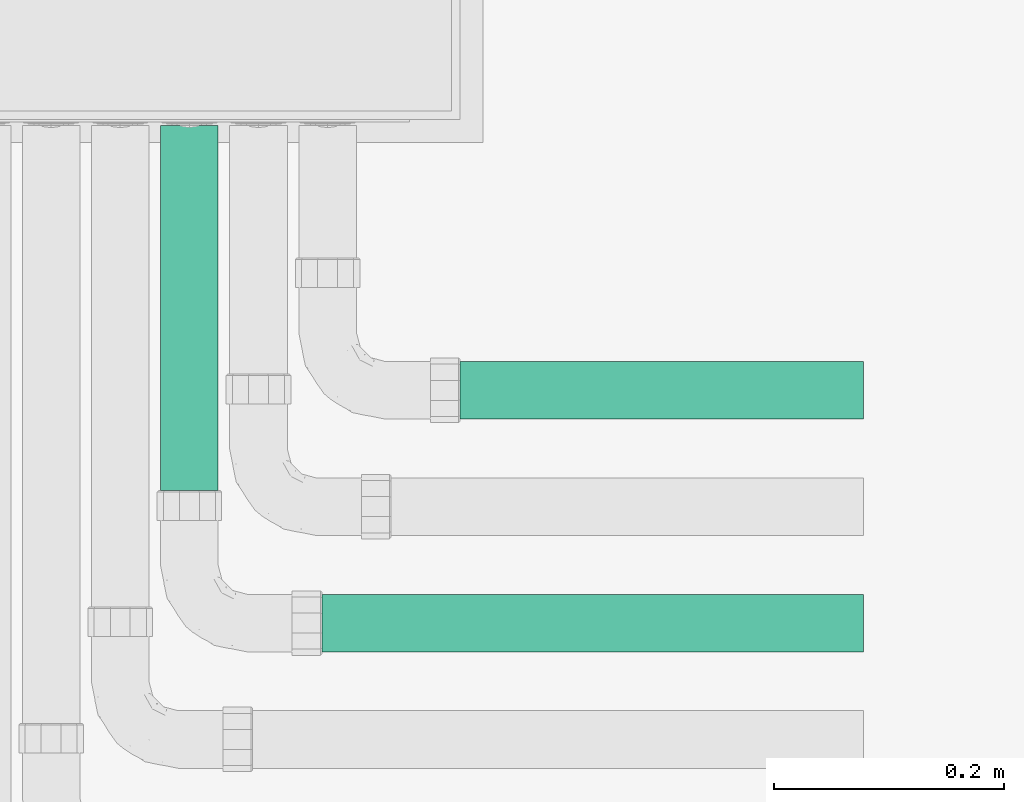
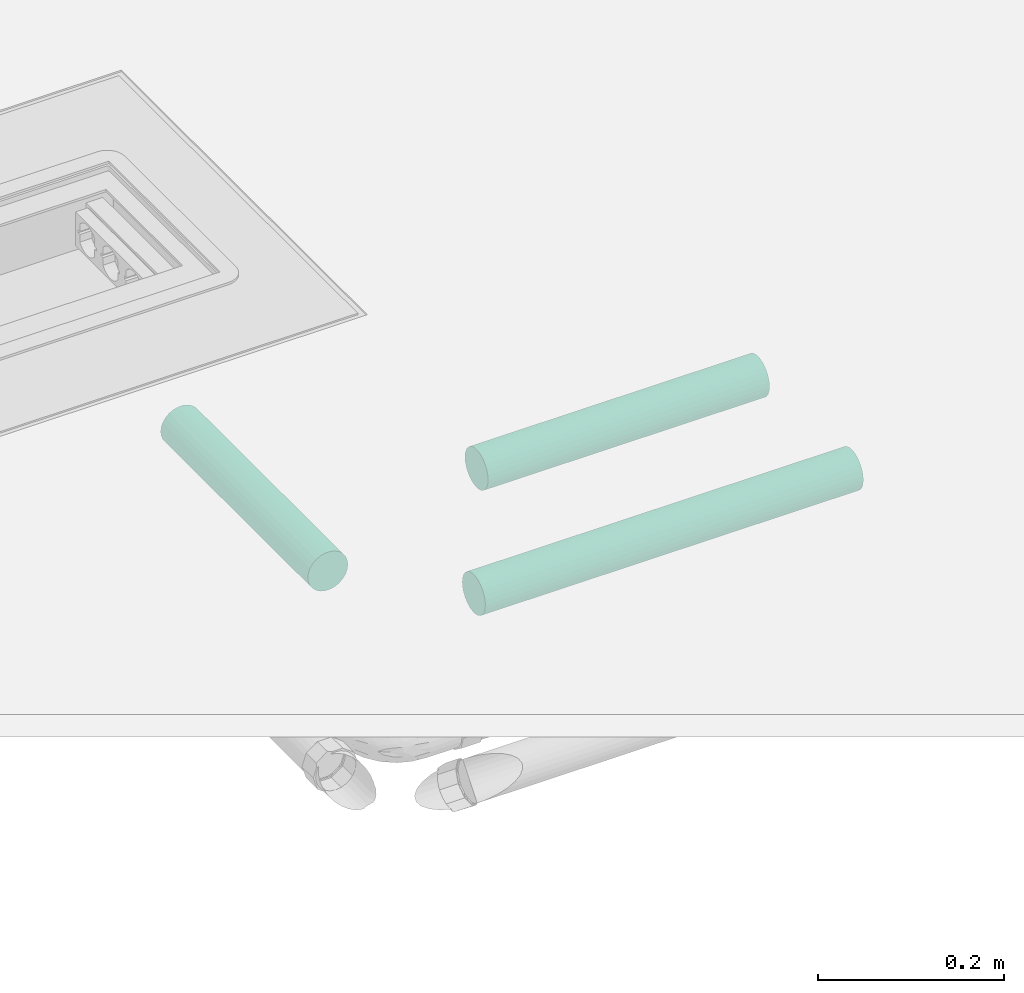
# One storey, part 6 of 87: 3 flow segments.
"""IFC2X3 building model written with IfcOpenShell, lengths in millimetres."""

import ifcopenshell
import ifcopenshell.guid

model = None  # the IFC model being written
_history = None  # IfcOwnerHistory: only IFC2X3 demands one
_inside = {}  # id of a spatial element -> (the spatial element, [elements in it])
_under = {}  # id of a project, library or spatial element -> (it, [spatial elements below it])
_declared = {}  # id of a project -> (the project, [libraries it declares])
_typed = {}  # id of a type object -> (the type object, [elements of that type])
_made_of = {}  # id of a material, layer set ... -> (it, [elements and type objects made of it])


def new_model(schema):
    """Start an empty IFC model of exactly this schema.

    Asked for "IFC4X3", IfcOpenShell would pick the latest addendum, in which some entities
    have other attributes; the version numbers below select the first issue.
    IFC2X3 requires an IfcOwnerHistory on every rooted entity: one is made here for all.
    """
    global model, _history
    if schema == "IFC4X3":
        model = ifcopenshell.file(schema_version=(4, 3, 0, 0))
    else:
        model = ifcopenshell.file(schema=schema)
    _inside.clear()
    _under.clear()
    _declared.clear()
    _typed.clear()
    _made_of.clear()
    _history = None
    if model.schema == "IFC2X3":
        org = make("IfcOrganization", Name="unknown")
        user = make(
            "IfcPersonAndOrganization",
            ThePerson=make("IfcPerson", FamilyName="unknown"),
            TheOrganization=org,
        )
        app = make(
            "IfcApplication",
            ApplicationDeveloper=org,
            Version="unknown",
            ApplicationFullName="unknown",
            ApplicationIdentifier="unknown",
        )
        _history = make(
            "IfcOwnerHistory",
            OwningUser=user,
            OwningApplication=app,
            ChangeAction="ADDED",
            CreationDate=0,
        )
    return model


def make(cls, **values):
    """One entity of the class cls with the attributes given. An attribute that is None is left unset."""
    return model.create_entity(
        cls, **{name: value for name, value in values.items() if value is not None}
    )


def entity(cls, *values):
    """Any entity or typed value of the class cls, its attributes in the order of the schema. None: left unset."""
    e = model.create_entity(cls)
    for i, value in enumerate(values):
        if value is not None:
            e[i] = value
    return e


def rooted(cls, **values):
    """An entity with a GlobalId (a new one), such as an element, a storey or a relation."""
    return make(cls, GlobalId=ifcopenshell.guid.new(), OwnerHistory=_history, **values)


def si_unit(unit_type, name, prefix=None):
    """IfcSIUnit, for example si_unit("LENGTHUNIT", "METRE", prefix="MILLI")."""
    return make("IfcSIUnit", UnitType=unit_type, Prefix=prefix, Name=name)


def converted_unit(unit_type, name, factor, base, dimensions=None, offset=None):
    """IfcConversionBasedUnit, such as the inch: factor (a typed value) times the base unit."""
    return make(
        "IfcConversionBasedUnit"
        if offset is None
        else "IfcConversionBasedUnitWithOffset",
        ConversionOffset=offset,
        Dimensions=None
        if dimensions is None
        else entity("IfcDimensionalExponents", *dimensions),
        UnitType=unit_type,
        Name=name,
        ConversionFactor=make(
            "IfcMeasureWithUnit", ValueComponent=factor, UnitComponent=base
        ),
    )


def derived_unit(unit_type, elements):
    """IfcDerivedUnit: a product of units, each with its exponent."""
    return make(
        "IfcDerivedUnit",
        Elements=[
            make("IfcDerivedUnitElement", Unit=unit, Exponent=power)
            for unit, power in elements
        ],
        UnitType=unit_type,
    )


def assignment(units):
    """IfcUnitAssignment: the units of a project."""
    return None if units is None else make("IfcUnitAssignment", Units=units)


def point(xyz):
    """IfcCartesianPoint."""
    return None if xyz is None else make("IfcCartesianPoint", Coordinates=xyz)


def direction(xyz):
    """IfcDirection."""
    return None if xyz is None else make("IfcDirection", DirectionRatios=xyz)


def frame(location, z_axis=None, x_axis=None):
    """IfcAxis2Placement3D, a coordinate frame: its origin and axes. An axis left out is left unset."""
    return make(
        "IfcAxis2Placement3D",
        Location=point(location),
        Axis=direction(z_axis),
        RefDirection=direction(x_axis),
    )


def frame_2d(location, x_axis=None):
    """IfcAxis2Placement2D, a coordinate frame in the plane: its origin and x axis."""
    return make(
        "IfcAxis2Placement2D", Location=point(location), RefDirection=direction(x_axis)
    )


def origin():
    """The frame at (0, 0, 0) with its axes left unset."""
    return frame((0.0, 0.0, 0.0))


def place(relative_to, where):
    """IfcLocalPlacement: puts the frame where relative to a parent placement (None: the world)."""
    return make(
        "IfcLocalPlacement", PlacementRelTo=relative_to, RelativePlacement=where
    )


def context(
    kind, dimensions, precision=None, world=None, true_north=None, identifier=None
):
    """IfcGeometricRepresentationContext, for example the 3D "Model" context."""
    return make(
        "IfcGeometricRepresentationContext",
        ContextIdentifier=identifier,
        ContextType=kind,
        CoordinateSpaceDimension=dimensions,
        Precision=precision,
        WorldCoordinateSystem=world,
        TrueNorth=true_north,
    )


def subcontext(parent, identifier, kind, view, scale=None):
    """IfcGeometricRepresentationSubContext, for example "Body" below "Model"."""
    return make(
        "IfcGeometricRepresentationSubContext",
        ContextIdentifier=identifier,
        ContextType=kind,
        ParentContext=parent,
        TargetScale=scale,
        TargetView=view,
    )


def project(units=None, contexts=None):
    """IfcProject with its units and contexts."""
    return rooted(
        "IfcProject",
        Name="project",
        RepresentationContexts=contexts,
        UnitsInContext=assignment(units),
    )


def spatial(cls, under=None, at=None, **own):
    """A site, building, storey or space (cls), placed at a placement, below another one or the project."""
    s = rooted(cls, ObjectPlacement=at, **own)
    if under is not None:
        _under.setdefault(under.id(), (under, []))[1].append(s)
    return s


def profile(cls, at=None, kind="AREA", **sizes):
    """A parametric profile (cls). Its sizes go by their IFC names, for example OverallWidth=200.0."""
    return make(cls, ProfileType=kind, Position=at, **sizes)


def circle(**sizes):
    """IfcCircleProfileDef."""
    return profile("IfcCircleProfileDef", **sizes)


def extrude(swept, where, along, depth):
    """IfcExtrudedAreaSolid: the profile swept, set in the frame where, extruded along a direction by depth."""
    return make(
        "IfcExtrudedAreaSolid",
        SweptArea=swept,
        Position=where,
        ExtrudedDirection=direction(along),
        Depth=depth,
    )


def shape(context_of_items, identifier, shape_type, items):
    """IfcShapeRepresentation: the items that make up one representation, for example the "Body"."""
    return make(
        "IfcShapeRepresentation",
        ContextOfItems=context_of_items,
        RepresentationIdentifier=identifier,
        RepresentationType=shape_type,
        Items=items,
    )


def made_of(thing, what):
    """Note that an element or type object is made of a material, layer set ...; save() writes the relation."""
    if what is not None:
        _made_of.setdefault(what.id(), (what, []))[1].append(thing)
    return thing


def type_object(cls, material=None, **own):
    """A type object (cls), such as IfcWallType, which elements share."""
    return made_of(rooted(cls, **own), material)


def element(
    cls,
    number,
    at=None,
    inside=None,
    cuts=None,
    type_object=None,
    material=None,
    context=None,
    identifier="Body",
    shape_type=None,
    held_by="IfcProductDefinitionShape",
    body=None,
    shapes=None,
    **own,
):
    """One element of the class cls, such as IfcWall. Its Tag is "e" and its number.

    at: its placement. inside: the storey or other place that contains it. cuts: it is an
    opening in that element (IfcRelVoidsElement). A single representation is given by context,
    identifier, shape_type and body (its items); several are given by shapes. held_by: the class
    of the entity that holds the representations. save() writes the other relations.
    """
    e = rooted(cls, Tag="e%d" % number, ObjectPlacement=at, **own)
    if body is not None:
        shapes = [shape(context, identifier, shape_type, body)]
    if shapes is not None:
        e.Representation = make(held_by, Representations=shapes)
    if inside is not None:
        _inside.setdefault(inside.id(), (inside, []))[1].append(e)
    if cuts is not None:
        rooted(
            "IfcRelVoidsElement", RelatingBuildingElement=cuts, RelatedOpeningElement=e
        )
    if type_object is not None:
        _typed.setdefault(type_object.id(), (type_object, []))[1].append(e)
    return made_of(e, material)


def aggregate(whole, parts):
    """IfcRelAggregates: a whole, such as a stair, and the parts it consists of."""
    return rooted("IfcRelAggregates", RelatingObject=whole, RelatedObjects=parts)


def save(model, path):
    """Write the relations noted so far, then the file.

    IfcRelAggregates (storeys below a building ...), IfcRelContainedInSpatialStructure (elements
    in a storey), IfcRelDefinesByType, IfcRelAssociatesMaterial and IfcRelDeclares: one each for
    every whole, place, type object, material and project.
    """
    for whole, parts in _under.values():
        aggregate(whole, parts)
    for where, things in _inside.values():
        rooted(
            "IfcRelContainedInSpatialStructure",
            RelatedElements=things,
            RelatingStructure=where,
        )
    for kind, things in _typed.values():
        rooted("IfcRelDefinesByType", RelatedObjects=things, RelatingType=kind)
    for what, things in _made_of.values():
        rooted("IfcRelAssociatesMaterial", RelatedObjects=things, RelatingMaterial=what)
    for by, libraries in _declared.values():
        rooted("IfcRelDeclares", RelatingContext=by, RelatedDefinitions=libraries)
    model.write(path)


model = new_model("IFC2X3")

# Units and contexts
model_context = context("Model", 3, precision=0.01, world=origin(), true_north=direction((6.12303176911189e-17, 1.0)))
body_context = subcontext(model_context, "Body", "Model", "MODEL_VIEW")
ifc_project = project(units=[si_unit("LENGTHUNIT", "METRE", prefix="MILLI"), si_unit("AREAUNIT", "SQUARE_METRE"), si_unit("VOLUMEUNIT", "CUBIC_METRE"), converted_unit("PLANEANGLEUNIT", "DEGREE", entity("IfcRatioMeasure", 0.0174532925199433), si_unit("PLANEANGLEUNIT", "RADIAN"), dimensions=[0, 0, 0, 0, 0, 0, 0]), si_unit("MASSUNIT", "GRAM", prefix="KILO"), derived_unit("MASSDENSITYUNIT", [(si_unit("MASSUNIT", "GRAM", prefix="KILO"), 1), (si_unit("LENGTHUNIT", "METRE"), -3)]), si_unit("TIMEUNIT", "SECOND"), si_unit("FREQUENCYUNIT", "HERTZ"), si_unit("THERMODYNAMICTEMPERATUREUNIT", "DEGREE_CELSIUS"), derived_unit("THERMALTRANSMITTANCEUNIT", [(si_unit("MASSUNIT", "GRAM", prefix="KILO"), 1), (si_unit("THERMODYNAMICTEMPERATUREUNIT", "KELVIN"), -1), (si_unit("TIMEUNIT", "SECOND"), -3)]), derived_unit("VOLUMETRICFLOWRATEUNIT", [(si_unit("LENGTHUNIT", "METRE"), 3), (si_unit("TIMEUNIT", "SECOND"), -1)]), si_unit("ELECTRICCURRENTUNIT", "AMPERE"), si_unit("ELECTRICVOLTAGEUNIT", "VOLT"), si_unit("POWERUNIT", "WATT"), si_unit("FORCEUNIT", "NEWTON", prefix="KILO"), si_unit("ILLUMINANCEUNIT", "LUX"), si_unit("LUMINOUSFLUXUNIT", "LUMEN"), si_unit("LUMINOUSINTENSITYUNIT", "CANDELA"), derived_unit("USERDEFINED", [(si_unit("MASSUNIT", "GRAM", prefix="KILO"), -1), (si_unit("LENGTHUNIT", "METRE"), -2), (si_unit("TIMEUNIT", "SECOND"), 3), (si_unit("LUMINOUSFLUXUNIT", "LUMEN"), 1)]), derived_unit("LINEARVELOCITYUNIT", [(si_unit("LENGTHUNIT", "METRE"), 1), (si_unit("TIMEUNIT", "SECOND"), -1)]), si_unit("PRESSUREUNIT", "PASCAL"), derived_unit("USERDEFINED", [(si_unit("LENGTHUNIT", "METRE"), -2), (si_unit("MASSUNIT", "GRAM", prefix="KILO"), 1), (si_unit("TIMEUNIT", "SECOND"), -2)])], contexts=[model_context])

# Site, building, storey
site_placement = place(None, origin())
site = spatial("IfcSite", under=ifc_project, at=site_placement, Name="Default", CompositionType="ELEMENT")
building_placement = place(site_placement, origin())
building = spatial("IfcBuilding", under=site, at=building_placement, Name="Наименование здания", CompositionType="ELEMENT")
storey_placement = place(building_placement, origin())
storey = spatial("IfcBuildingStorey", under=building, at=storey_placement, Name="Этаж 01", CompositionType="ELEMENT", Elevation=0.0)

# Flow segments
cable_carrier_segment_type = type_object("IfcCableCarrierSegmentType", Name="Короб с соединительными деталями:ADSK_Труба водогазопроводная_Стальная", PredefinedType="CONDUITSEGMENT")
flow_segment_1_placement = place(storey_placement, origin())
element("IfcFlowSegment", 1, at=flow_segment_1_placement, inside=storey, type_object=cable_carrier_segment_type, Name="Короб с соединительными деталями:ADSK_Труба водогазопроводная_Стальная", ObjectType="Короб с соединительными деталями:ADSK_Труба водогазопроводная_Стальная", context=body_context, shape_type="SweptSolid", body=[
    extrude(circle(Radius=25.0, at=frame_2d((0.0, -3.38395977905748e-14), x_axis=(1.0, 0.0))), frame((-16550.2403415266, 6224.36678153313, -59.5000000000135), z_axis=(1.0, 0.0, 0.0), x_axis=(0.0, -1.0, 0.0)), (0.0, 0.0, 1.0), 350.000000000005),
])
flow_segment_2_placement = place(storey_placement, origin())
element("IfcFlowSegment", 2, at=flow_segment_2_placement, inside=storey, type_object=cable_carrier_segment_type, Name="Короб с соединительными деталями:ADSK_Труба водогазопроводная_Стальная", ObjectType="Короб с соединительными деталями:ADSK_Труба водогазопроводная_Стальная", context=body_context, shape_type="SweptSolid", body=[
    extrude(circle(Radius=25.0, at=frame_2d((-8.66293703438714e-12, 1.15900622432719e-12), x_axis=(1.0, 0.0))), frame((-16785.2403415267, 6137.36678153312, -59.5000000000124), z_axis=(0.0, 1.0, 0.0), x_axis=(-1.0, 0.0, 0.0)), (0.0, 0.0, 1.0), 317.000000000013),
])
flow_segment_3_placement = place(storey_placement, origin())
element("IfcFlowSegment", 3, at=flow_segment_3_placement, inside=storey, type_object=cable_carrier_segment_type, Name="Короб с соединительными деталями:ADSK_Труба водогазопроводная_Стальная", ObjectType="Короб с соединительными деталями:ADSK_Труба водогазопроводная_Стальная", context=body_context, shape_type="SweptSolid", body=[
    extrude(circle(Radius=25.0, at=frame_2d((0.0, -3.38395977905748e-14), x_axis=(1.0, 0.0))), frame((-16670.2403415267, 6022.36678153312, -59.5000000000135), z_axis=(1.0, 0.0, 0.0), x_axis=(0.0, -1.0, 0.0)), (0.0, 0.0, 1.0), 470.000000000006),
])

save(model, "model.ifc")
